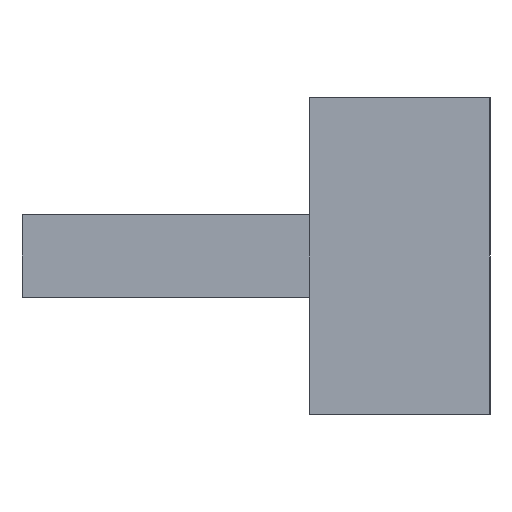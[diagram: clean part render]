
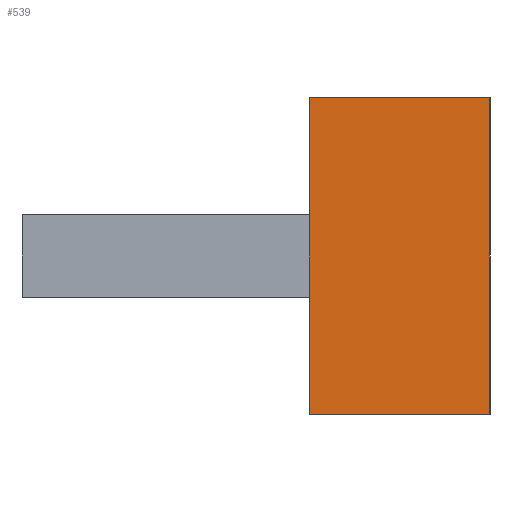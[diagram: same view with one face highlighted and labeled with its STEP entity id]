
A CAD part, left-side view. The second image highlights one B-rep face of the part: STEP entity #539.
In plain terms, the highlighted planar face has unit normal (-1, 0, 0).
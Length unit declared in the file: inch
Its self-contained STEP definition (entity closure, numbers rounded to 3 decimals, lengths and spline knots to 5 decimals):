
#19 = CARTESIAN_POINT ( 'NONE',  ( -0.8875, 0.22, 0.193 ) ) ;
#20 = EDGE_CURVE ( 'NONE', #473, #601, #329, .T. ) ;
#52 = VERTEX_POINT ( 'NONE', #286 ) ;
#75 = VECTOR ( 'NONE', #298, 39.37008 ) ;
#84 = CARTESIAN_POINT ( 'NONE',  ( -0.8875, 0., -0.193 ) ) ;
#92 = ORIENTED_EDGE ( 'NONE', *, *, #95, .T. ) ;
#94 = DIRECTION ( 'NONE',  ( 0., 0., -1. ) ) ;
#95 = EDGE_CURVE ( 'NONE', #464, #601, #371, .T. ) ;
#109 = LINE ( 'NONE', #19, #75 ) ;
#114 = ORIENTED_EDGE ( 'NONE', *, *, #20, .F. ) ;
#119 = EDGE_CURVE ( 'NONE', #52, #473, #109, .T. ) ;
#157 = EDGE_CURVE ( 'NONE', #52, #464, #437, .T. ) ;
#182 = CARTESIAN_POINT ( 'NONE',  ( -0.8875, 0.22, 0.193 ) ) ;
#210 = DIRECTION ( 'NONE',  ( 0., -1., 0. ) ) ;
#242 = VECTOR ( 'NONE', #293, 39.37008 ) ;
#251 = CARTESIAN_POINT ( 'NONE',  ( -0.8875, 0.22, -0.193 ) ) ;
#260 = EDGE_LOOP ( 'NONE', ( #92, #114, #575, #360 ) ) ;
#286 = CARTESIAN_POINT ( 'NONE',  ( -0.8875, 0.22, -0.193 ) ) ;
#293 = DIRECTION ( 'NONE',  ( 0., 0., 1. ) ) ;
#298 = DIRECTION ( 'NONE',  ( 0., 0., 1. ) ) ;
#329 = LINE ( 'NONE', #554, #499 ) ;
#360 = ORIENTED_EDGE ( 'NONE', *, *, #157, .T. ) ;
#369 = CARTESIAN_POINT ( 'NONE',  ( -0.8875, 0.22, 0.193 ) ) ;
#371 = LINE ( 'NONE', #444, #242 ) ;
#411 = FACE_OUTER_BOUND ( 'NONE', #260, .T. ) ;
#416 = DIRECTION ( 'NONE',  ( 0., -1., 0. ) ) ;
#424 = PLANE ( 'NONE',  #476 ) ;
#437 = LINE ( 'NONE', #251, #581 ) ;
#444 = CARTESIAN_POINT ( 'NONE',  ( -0.8875, 0., 0.193 ) ) ;
#464 = VERTEX_POINT ( 'NONE', #84 ) ;
#473 = VERTEX_POINT ( 'NONE', #369 ) ;
#476 = AXIS2_PLACEMENT_3D ( 'NONE', #182, #510, #94 ) ;
#499 = VECTOR ( 'NONE', #416, 39.37008 ) ;
#510 = DIRECTION ( 'NONE',  ( 1., 0., 0. ) ) ;
#516 = CARTESIAN_POINT ( 'NONE',  ( -0.8875, 0., 0.193 ) ) ;
#539 = ADVANCED_FACE ( 'NONE', ( #411 ), #424, .F. ) ;
#554 = CARTESIAN_POINT ( 'NONE',  ( -0.8875, 0.22, 0.193 ) ) ;
#575 = ORIENTED_EDGE ( 'NONE', *, *, #119, .F. ) ;
#581 = VECTOR ( 'NONE', #210, 39.37008 ) ;
#601 = VERTEX_POINT ( 'NONE', #516 ) ;
